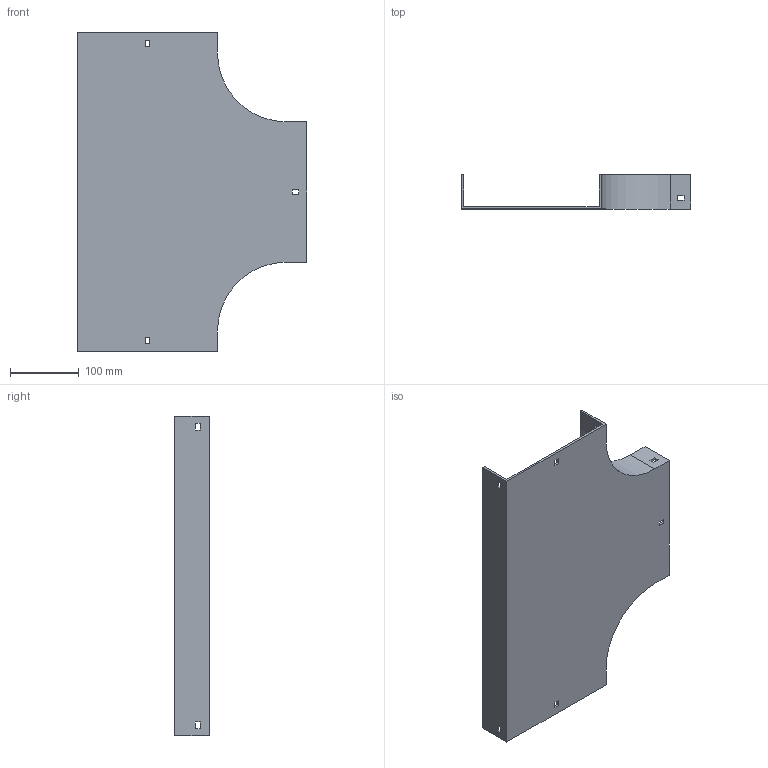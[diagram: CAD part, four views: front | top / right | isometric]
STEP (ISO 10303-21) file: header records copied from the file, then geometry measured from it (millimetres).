
FILE_DESCRIPTION (( 'STEP AP214' ), '1' );
FILE_NAME ('15F1B200.step', '2025-02-21T13:04:14', ( '' ), ( '' ), 'SwSTEP 2.0', 'SolidWorks 2023', '' );
FILE_SCHEMA (( 'AUTOMOTIVE_DESIGN' ));
Length unit declared in the file: millimetre
Products named in the file (1): 15F1B200
Bounding box: 334 x 50 x 464 mm (x, y, z)
Volume: 584124.1 mm3; surface area: 341086.7 mm2
Topology: 1 solids, 1 shells, 58 faces, 168 edges, 112 vertices
Faces by surface type: plane 54, cylinder 4
Entity records: 1939 total; most frequent: CARTESIAN_POINT 339, ORIENTED_EDGE 336, DIRECTION 294, EDGE_CURVE 168, LINE 160, VECTOR 160, VERTEX_POINT 112, EDGE_LOOP 76
